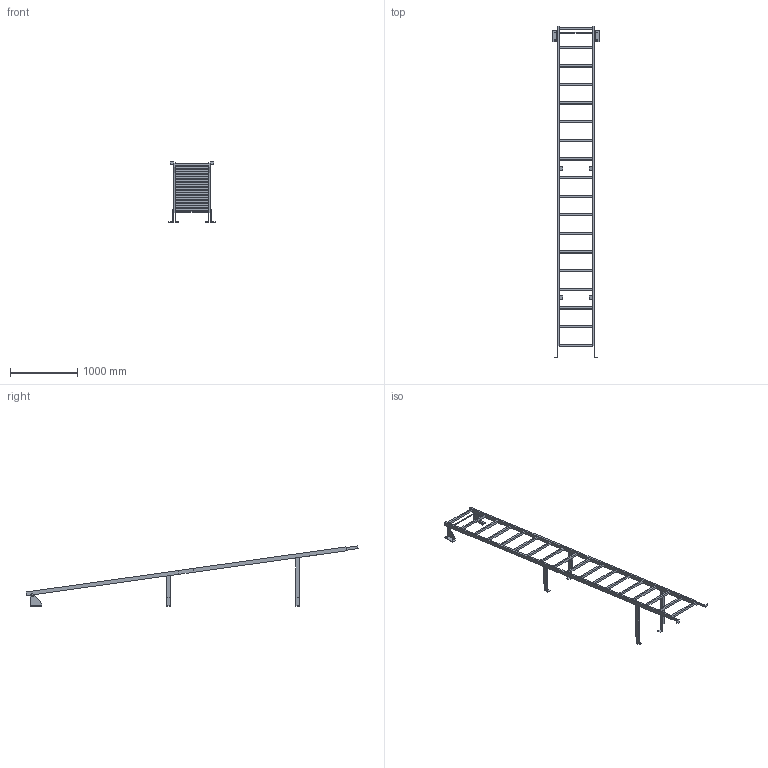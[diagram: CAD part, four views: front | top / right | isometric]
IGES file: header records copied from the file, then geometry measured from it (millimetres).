
Start section:  PTC IGES file: 52310371.igs
Global section: file name: 52310371.igs; native system: Creo Parametric by PTC Inc.; preprocessor: 2022162; author: wep; organization: Unknown; date: 20241017.090934; units: millimetre
Bounding box: 690 x 4942.25 x 895.91 mm (x, y, z)
Surface area: 3294361.4 mm2 (no closed solid volume)
Topology: 0 solids, 0 shells, 204 faces, 1056 edges, 1056 vertices
Faces by surface type: bspline 188, revolution 16
